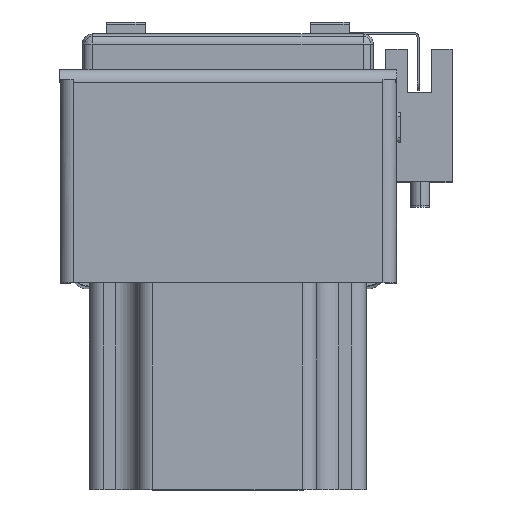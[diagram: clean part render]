
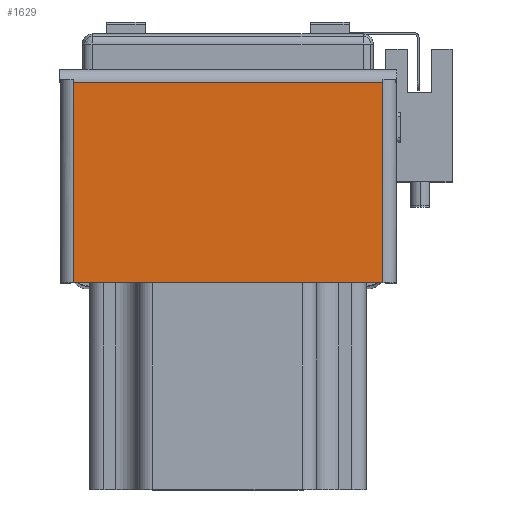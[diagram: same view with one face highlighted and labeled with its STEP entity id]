
A CAD part, top view. The second image highlights one B-rep face of the part: STEP entity #1629.
In plain terms, the highlighted planar face has unit normal (0, 0, 1) as drawn and (1, 0, 0) by its records, which use the part's own axes.
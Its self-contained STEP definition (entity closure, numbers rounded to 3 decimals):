
#1629 = ADVANCED_FACE ( 'NONE', ( #32955 ), #12471, .F. ) ;
#7921 = LINE ( 'NONE', #9825, #7933 ) ;
#7933 = VECTOR ( 'NONE', #9857, 1000. ) ;
#8271 = LINE ( 'NONE', #10023, #8309 ) ;
#8309 = VECTOR ( 'NONE', #10041, 1000. ) ;
#8345 = LINE ( 'NONE', #10115, #8348 ) ;
#8348 = VECTOR ( 'NONE', #10112, 1000. ) ;
#8562 = LINE ( 'NONE', #10287, #8570 ) ;
#8570 = VECTOR ( 'NONE', #10265, 1000. ) ;
#9825 = CARTESIAN_POINT ( 'NONE',  ( 2., 42., -31.863 ) ) ;
#9857 = DIRECTION ( 'NONE',  ( 0., -1., 0. ) ) ;
#10023 = CARTESIAN_POINT ( 'NONE',  ( 2., 0., -32.6 ) ) ;
#10041 = DIRECTION ( 'NONE',  ( 0., 0., -1. ) ) ;
#10112 = DIRECTION ( 'NONE',  ( 0., -1., 0. ) ) ;
#10115 = CARTESIAN_POINT ( 'NONE',  ( 2., 42., 31.863 ) ) ;
#10265 = DIRECTION ( 'NONE',  ( 0., 0., 1. ) ) ;
#10287 = CARTESIAN_POINT ( 'NONE',  ( 2., 41.263, -31.863 ) ) ;
#12468 = CARTESIAN_POINT ( 'NONE',  ( 2., 42., -32.6 ) ) ;
#12470 = DIRECTION ( 'NONE',  ( 0., 0., 1. ) ) ;
#12471 = PLANE ( 'NONE',  #18399 ) ;
#12475 = DIRECTION ( 'NONE',  ( -1., 0., 0. ) ) ;
#13189 = ORIENTED_EDGE ( 'NONE', *, *, #19605, .T. ) ;
#13204 = ORIENTED_EDGE ( 'NONE', *, *, #19492, .F. ) ;
#13206 = ORIENTED_EDGE ( 'NONE', *, *, #19675, .T. ) ;
#13229 = ORIENTED_EDGE ( 'NONE', *, *, #19575, .T. ) ;
#18399 = AXIS2_PLACEMENT_3D ( 'NONE', #12468, #12475, #12470 ) ;
#19492 = EDGE_CURVE ( 'NONE', #29354, #29397, #7921, .T. ) ;
#19575 = EDGE_CURVE ( 'NONE', #29465, #29397, #8271, .T. ) ;
#19605 = EDGE_CURVE ( 'NONE', #29393, #29465, #8345, .T. ) ;
#19675 = EDGE_CURVE ( 'NONE', #29354, #29393, #8562, .T. ) ;
#28426 = EDGE_LOOP ( 'NONE', ( #13206, #13189, #13229, #13204 ) ) ;
#29354 = VERTEX_POINT ( 'NONE', #30481 ) ;
#29393 = VERTEX_POINT ( 'NONE', #30592 ) ;
#29397 = VERTEX_POINT ( 'NONE', #30537 ) ;
#29465 = VERTEX_POINT ( 'NONE', #30627 ) ;
#30481 = CARTESIAN_POINT ( 'NONE',  ( 2., 41.263, -31.863 ) ) ;
#30537 = CARTESIAN_POINT ( 'NONE',  ( 2., 0., -31.863 ) ) ;
#30592 = CARTESIAN_POINT ( 'NONE',  ( 2., 41.263, 31.863 ) ) ;
#30627 = CARTESIAN_POINT ( 'NONE',  ( 2., 0., 31.863 ) ) ;
#32955 = FACE_OUTER_BOUND ( 'NONE', #28426, .T. ) ;
